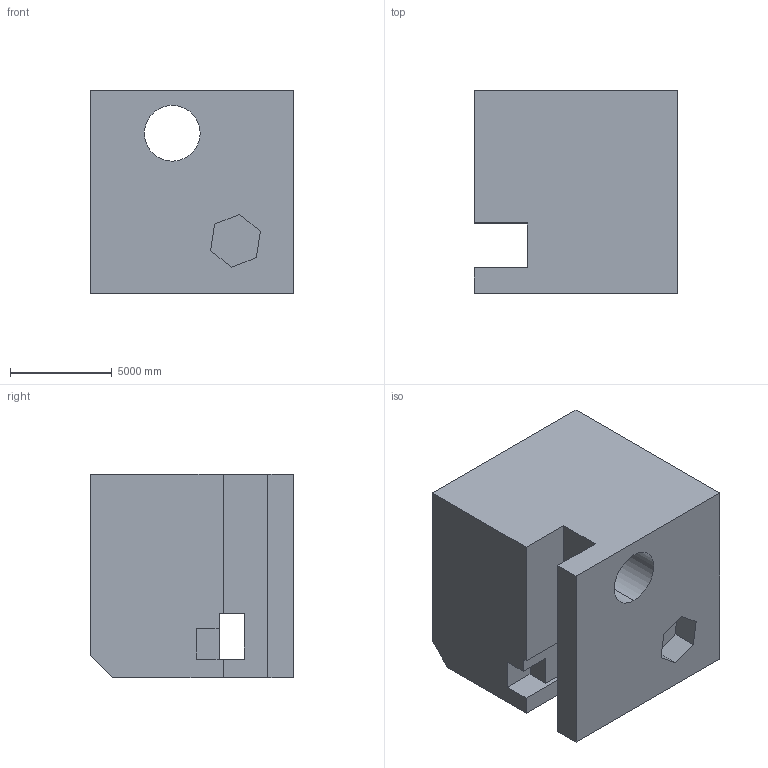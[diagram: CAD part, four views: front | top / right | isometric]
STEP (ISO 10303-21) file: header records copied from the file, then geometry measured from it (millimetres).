
FILE_DESCRIPTION (( 'STEP AP203' ), '1' );
FILE_NAME ('630.STEP', '2022-07-29T12:11:34', ( 'user' ), ( '' ), 'SwSTEP 2.0', 'SolidWorks 2021', '' );
FILE_SCHEMA (( 'CONFIG_CONTROL_DESIGN' ));
Length unit declared in the file: centimetre
Products named in the file (1): 630
Bounding box: 10000 x 10000 x 10000 mm (x, y, z)
Volume: 842497596892.3 mm3; surface area: 766362492.9 mm2
Topology: 1 solids, 1 shells, 30 faces, 84 edges, 56 vertices
Faces by surface type: plane 28, cylinder 2
Entity records: 1037 total; most frequent: CARTESIAN_POINT 171, ORIENTED_EDGE 168, DIRECTION 150, EDGE_CURVE 84, VECTOR 80, LINE 80, VERTEX_POINT 56, AXIS2_PLACEMENT_3D 35
